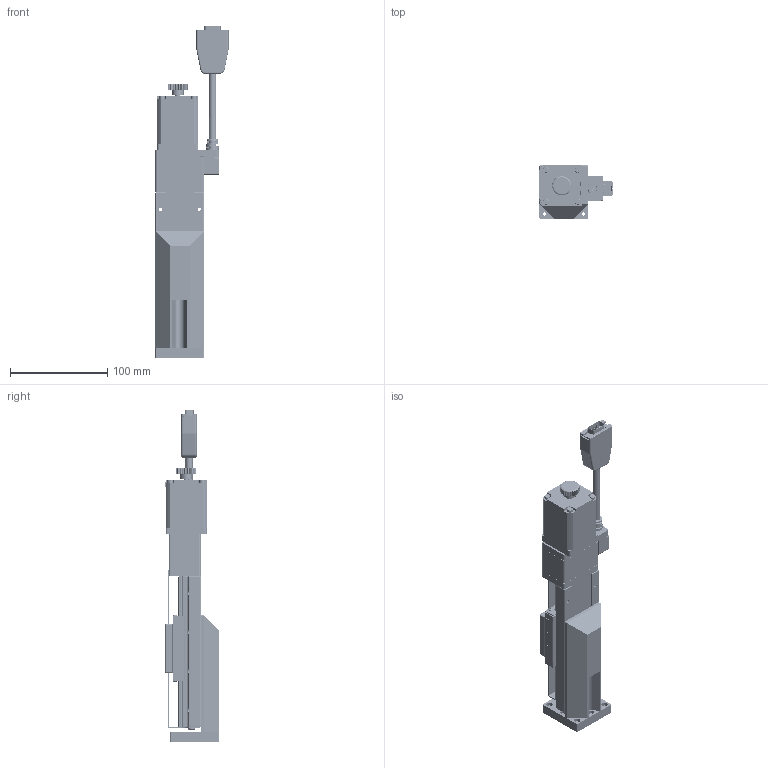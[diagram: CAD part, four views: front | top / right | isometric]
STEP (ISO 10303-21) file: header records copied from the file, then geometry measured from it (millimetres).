
FILE_DESCRIPTION (( 'STEP AP203' ), '1' );
FILE_NAME ('CZLC5075.STEP', '2023-11-28T01:05:38', ( '' ), ( '' ), 'SwSTEP 2.0', 'SolidWorks 2019', '' );
FILE_SCHEMA (( 'CONFIG_CONTROL_DESIGN' ));
Length unit declared in the file: millimetre
Products named in the file (13): Group1^CZLC5075-S2?N(2023新版)_defeature_GMT; CMZB50-3; SC03B008_SUS304(鍍鋅黑); CMZB50; SG02B004_SCM435(化鎳); Group2^CZLC5075-S2?N(2023新版)_defeature_GMT; CXC50-102-10; CXC5075-S2OPAN-303_50; CZLC5075; SD04B006_SD04B006-SCM435(化鎳); AMZB50-1; SC03B012_SCM435(化鎳後耐落); SC04B012_SCM435(化鎳)
Assembly tree (24 placements, depth 3):
  CZLC5075
    Group1^CZLC5075-S2?N(2023新版)_defeature_GMT
    Group2^CZLC5075-S2?N(2023新版)_defeature_GMT
    CMZB50
      AMZB50-1
      CMZB50-3
      SC04B012_SCM435(化鎳)  x2
    SC03B012_SCM435(化鎳後耐落)  x6
    SD04B006_SD04B006-SCM435(化鎳)  x2
    CXC5075-S2OPAN-303_50
    SC03B008_SUS304(鍍鋅黑)  x4
    CXC50-102-10  x2
    SG02B004_SCM435(化鎳)  x2
Bounding box: 75 x 55 x 340.6 mm (x, y, z)
Volume: 108919.3 mm3; surface area: 175009.3 mm2
Topology: 22 solids, 111 shells, 8911 faces, 22705 edges, 14043 vertices
Faces by surface type: plane 3604, cylinder 2067, bspline 1503, cone 957, torus 576, sphere 204
Entity records: 284901 total; most frequent: CARTESIAN_POINT 89673, ORIENTED_EDGE 42930, DIRECTION 36244, EDGE_CURVE 21465, VERTEX_POINT 13459, AXIS2_PLACEMENT_3D 12958, LINE 10328, VECTOR 10328
